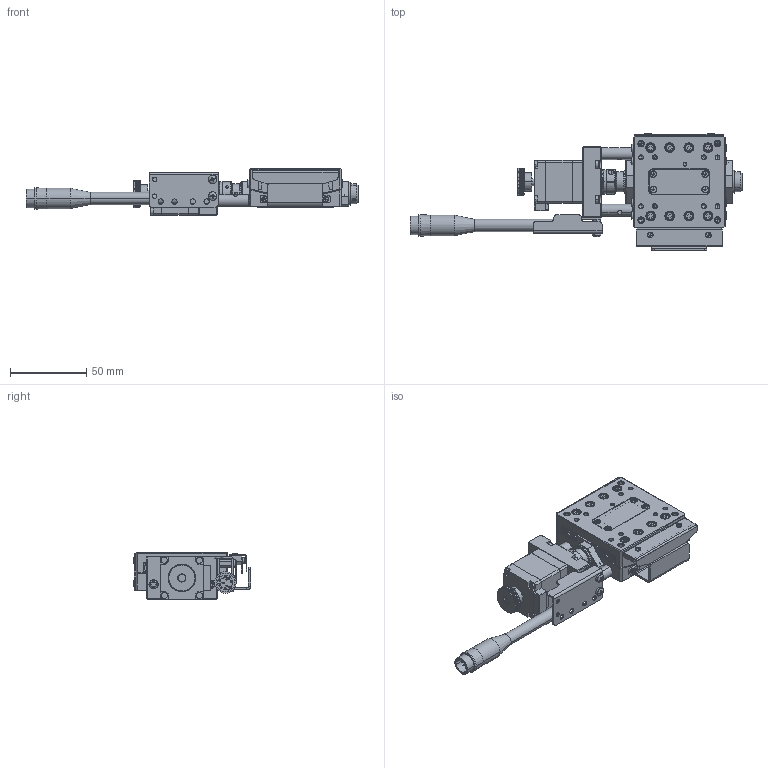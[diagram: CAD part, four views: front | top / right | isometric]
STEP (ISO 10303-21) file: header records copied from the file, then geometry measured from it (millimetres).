
FILE_DESCRIPTION (( 'STEP AP214' ), '1' );
FILE_NAME ('TAA6075-L1-M28L.STEP', '2025-01-03T08:23:05', ( '' ), ( '' ), 'SwSTEP 2.0', 'SolidWorks 2020', '' );
FILE_SCHEMA (( 'AUTOMOTIVE_DESIGN' ));
Length unit declared in the file: millimetre
Products named in the file (1): TAA6075-L1-M28L
Bounding box: 217.08 x 76.71 x 30.5 mm (x, y, z)
Volume: 128313.4 mm3; surface area: 70765.5 mm2
Topology: 27 solids, 124 shells, 4058 faces, 10134 edges, 6371 vertices
Faces by surface type: plane 2034, cylinder 1159, cone 398, torus 217, bspline 202, sphere 48
Entity records: 141138 total; most frequent: CARTESIAN_POINT 44825, ORIENTED_EDGE 19872, DIRECTION 19749, EDGE_CURVE 9936, AXIS2_PLACEMENT_3D 7036, VERTEX_POINT 6383, LINE 5677, VECTOR 5677
